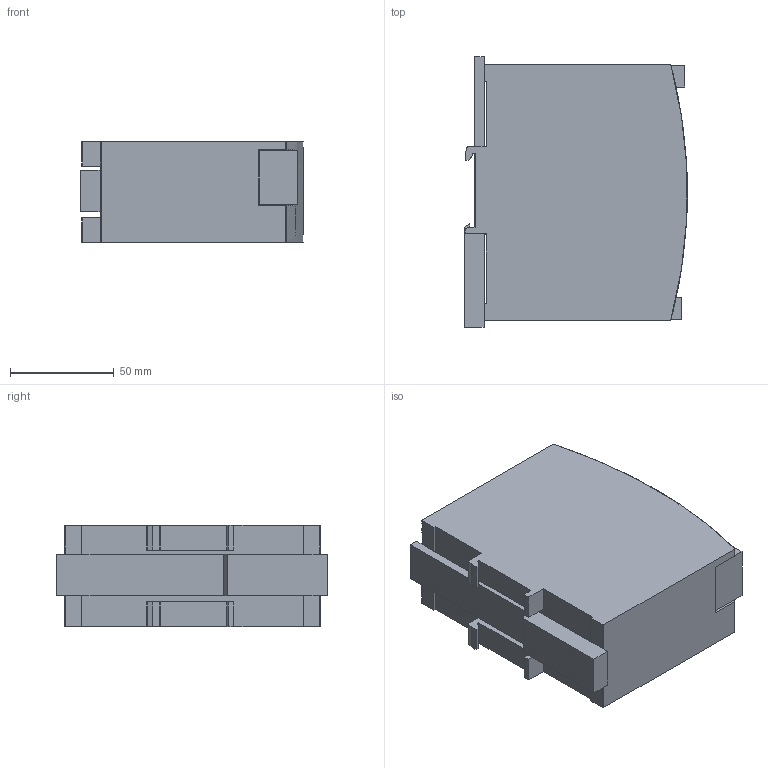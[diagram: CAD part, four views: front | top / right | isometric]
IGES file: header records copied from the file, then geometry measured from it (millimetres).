
Start section: SolidWorks IGES FILE using analytic representation for surfaces
Global section: file name: C:\Vertrieb\SL2_100\SL2_100.IGS; native system: SolidWorks 2003 by SolidWorks Corporation; preprocessor: Version 5.3; author: heinrij; date: 030917.104906; units: millimetre
Bounding box: 107.63 x 130.5 x 49 mm (x, y, z)
Surface area: 58639 mm2 (no closed solid volume)
Topology: 0 solids, 0 shells, 665 faces, 6028 edges, 6028 vertices
Faces by surface type: bspline 623, revolution 42
